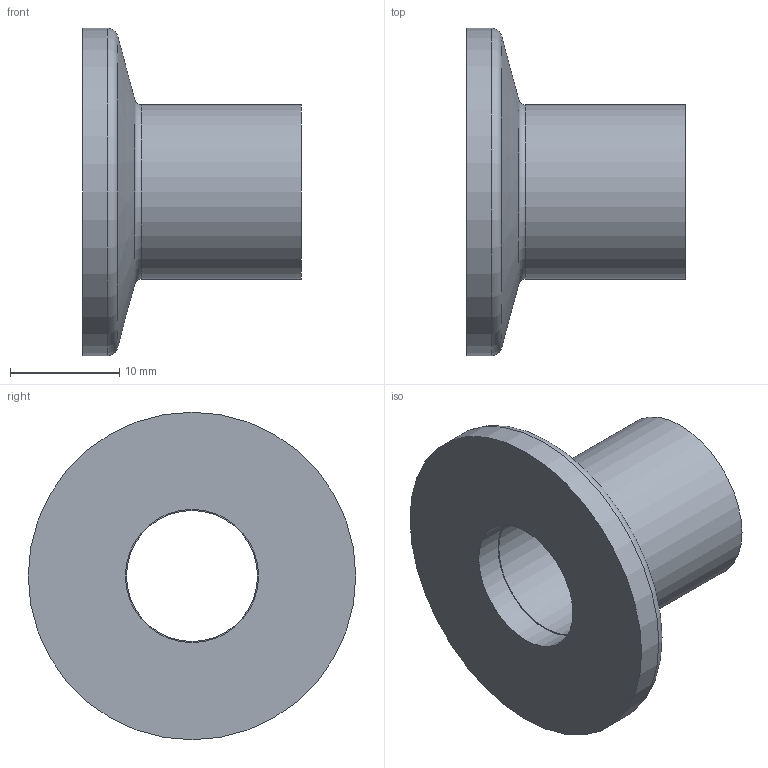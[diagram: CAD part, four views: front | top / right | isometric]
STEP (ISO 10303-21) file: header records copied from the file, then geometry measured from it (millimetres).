
FILE_DESCRIPTION(/* description */ (''),/* implementation_level */ '2;1');
FILE_NAME(/* name */ '18231.step',/* time_stamp */ '2015-02-13T07:53:14+08:00',/* author */ (''),/* organization */ (''),/* preprocessor_version */ 'ST-DEVELOPER v11',/* originating_system */ 'SIEMENS UGS NX 6.0',/* authorisation */ '');
FILE_SCHEMA (('AUTOMOTIVE_DESIGN { 1 0 10303 214 1 1 1 1 }'));
Length unit declared in the file: millimetre
Products named in the file (1): 18231
Bounding box: 20 x 30 x 30 mm (x, y, z)
Volume: 3684.9 mm3; surface area: 2975.6 mm2
Topology: 1 solids, 1 shells, 10 faces, 17 edges, 10 vertices
Faces by surface type: cylinder 4, plane 3, torus 2, cone 1
Full cylindrical faces by diameter (mm): 12 x1, 12.2 x1, 16 x1, 30 x1
Entity records: 232 total; most frequent: DIRECTION 42, CARTESIAN_POINT 31, AXIS2_PLACEMENT_3D 21, FACE_BOUND 20, EDGE_LOOP 20, ORIENTED_EDGE 20, ADVANCED_FACE 10, VERTEX_POINT 10
